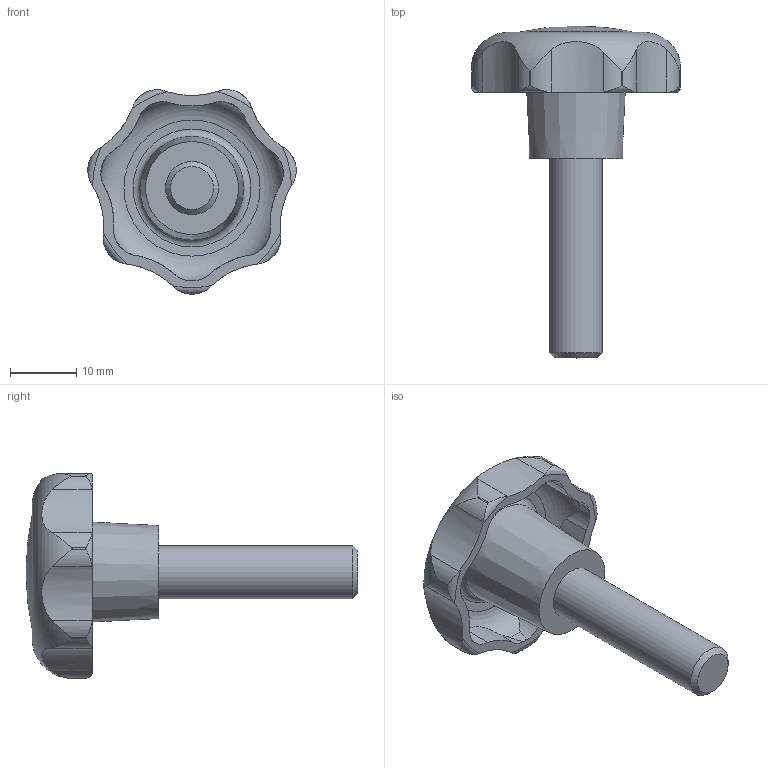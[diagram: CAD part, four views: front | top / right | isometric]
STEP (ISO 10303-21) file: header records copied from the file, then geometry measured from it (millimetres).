
FILE_DESCRIPTION( ( 'STEP AP203' ), '1' );
FILE_NAME( 'C:/Temp/Ganter_Step_05_03_2020/data/2_2/gn_6336_4/gn_6336_4_st/Star knob GN 6336.4-ST-32-M8-30.stp', '2020-03-05T12:07:25', ( 'License CC BY-ND 4.0' ), ( 'CADENAS' ), ' ', 'PARTsolutions', ' ' );
FILE_SCHEMA( ( 'CONFIG_CONTROL_DESIGN' ) );
Length unit declared in the file: millimetre
Products named in the file (1): _Star knob GN 6336.4-ST-32-M8-30
Bounding box: 31.4 x 50 x 30.81 mm (x, y, z)
Volume: 7306.2 mm3; surface area: 3925.3 mm2
Topology: 1 solids, 1 shells, 74 faces, 209 edges, 138 vertices
Faces by surface type: cylinder 50, torus 10, cone 10, plane 3, sphere 1
Full cylindrical faces by diameter (mm): 8 x1
Entity records: 3221 total; most frequent: CARTESIAN_POINT 1406, ORIENTED_EDGE 394, DIRECTION 336, EDGE_CURVE 197, AXIS2_PLACEMENT_3D 147, VERTEX_POINT 136, EDGE_LOOP 83, B_SPLINE_CURVE_WITH_KNOTS 83
